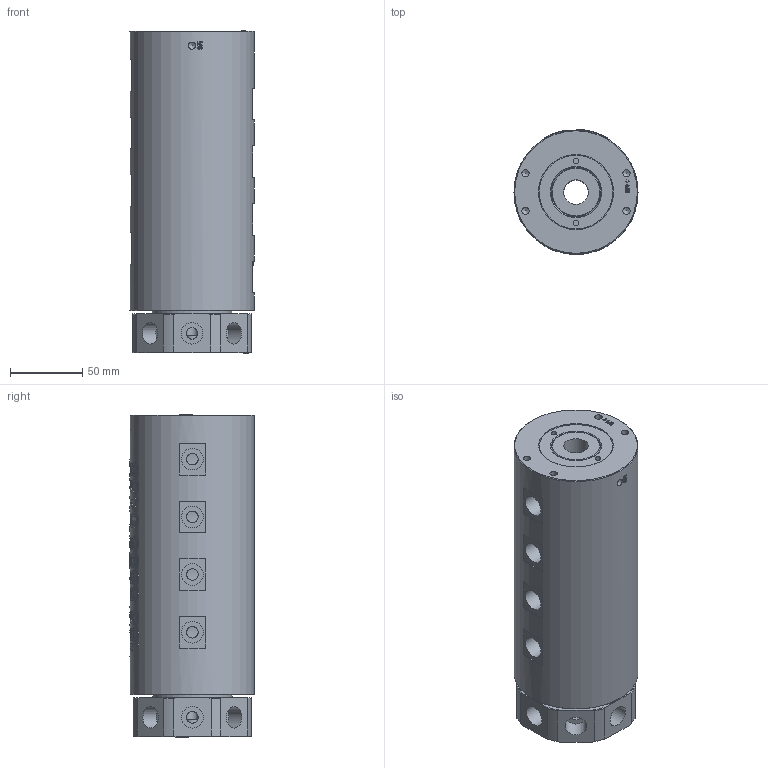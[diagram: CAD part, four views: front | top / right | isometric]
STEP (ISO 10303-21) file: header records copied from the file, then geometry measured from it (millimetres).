
FILE_DESCRIPTION(/* description */ (''),/* implementation_level */ '2;1');
FILE_NAME(/* name */ 'YQ0803-3D模型.stp',/* time_stamp */ '2025-08-02T17:23:53+08:00',/* author */ (''),/* organization */ (''),/* preprocessor_version */ 'ST-DEVELOPER v16.7',/* originating_system */ 'SIEMENS PLM Software NX 12.0',/* authorisation */ '');
FILE_SCHEMA (('AUTOMOTIVE_DESIGN { 1 0 10303 214 3 1 1 1 }'));
Products named in the file (1): Admi0A2CCD10cf2i
Bounding box: 86 x 86.51 x 223.4 mm (x, y, z)
Volume: 1177449 mm3; surface area: 116194.2 mm2
Topology: 1 solids, 2 shells, 1475 faces, 4034 edges, 2686 vertices
Faces by surface type: extrusion 798, plane 448, cylinder 133, bspline 57, cone 39
Full cylindrical faces by diameter (mm): 4 x2, 5 x10, 8 x24, 8.4 x8, 8.5 x8, 15 x16, 17 x1, 33 x1, 33.5 x1, 44 x1, 51 x1, 52 x1, 55 x1, 86 x1
Entity records: 56444 total; most frequent: CARTESIAN_POINT 25606, ORIENTED_EDGE 7696, EDGE_CURVE 3848, B_SPLINE_CURVE_WITH_KNOTS 3758, DIRECTION 3330, VERTEX_POINT 2612, EDGE_LOOP 1706, ADVANCED_FACE 1468
